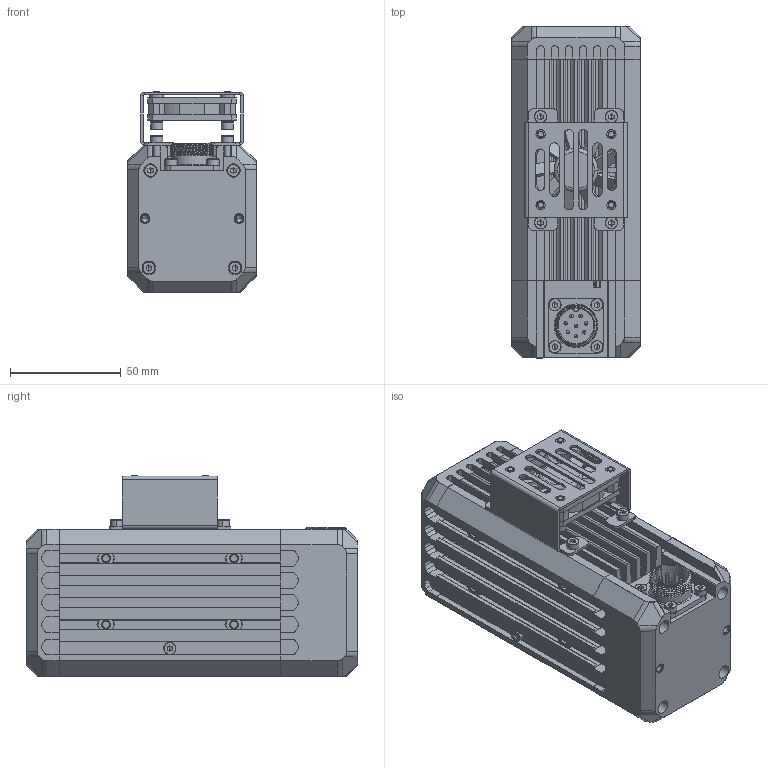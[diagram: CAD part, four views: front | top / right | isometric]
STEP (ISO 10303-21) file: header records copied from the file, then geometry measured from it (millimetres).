
FILE_DESCRIPTION((''),'2;1');
FILE_NAME('MV-LTDS-H-100-W_ASM','2025-06-03T14:35:54',('huguozhe'),(''),'CREO PARAMETRIC BY PTC INC, 2020044','CREO PARAMETRIC BY PTC INC, 2020044','');
FILE_SCHEMA(('AUTOMOTIVE_DESIGN { 1 0 10303 214 1 1 1 1 }'));
Products named in the file (24): DE-15-000602_1_1; DE-15-000601_ASM_1_ASM_1_ASM; DE-15-000604_1_1; DE-15-000603_ASM_1_ASM_1_ASM; SC-HSCM3X6B-GB70_1_1_1; DE-12-001639_1_1; SC-AM3X10NL-BNI-SCM435-GB70_1_1; SC-HSCM3X8-SUS316_1_1; DE-11-019911_1_1; 8002-CLS-M3-1_1_1; DE-11-019911_ASM_1_ASM_1_ASM; 101800527_01_1_1; 101800527_02_1_1; 101800527_MGA4012HB-O10_ASM_1_A_ASM; SC-ASFM3X14NL-BNI-SUS316L_1_1; NUT-M4-GB6170_1_1; PRT0002_1; DE-14-016113_ASM_1; MV-LTDS-H-100-W_ASM_1_ASM_1_ASM; 19M-H_2_1; 19M-8H-8P_1; 19M-8H_ASM_1_1_ASM; 19M-8H_ASM_ASM; MV-LTDS-H-100-W_ASM
Assembly tree (52 placements, depth 4):
  MV-LTDS-H-100-W_ASM
    MV-LTDS-H-100-W_ASM_1_ASM_1_ASM
      DE-15-000601_ASM_1_ASM_1_ASM
        DE-15-000602_1_1
      DE-15-000603_ASM_1_ASM_1_ASM  x2
        DE-15-000604_1_1
      SC-HSCM3X6B-GB70_1_1_1  x2
      DE-12-001639_1_1
      SC-AM3X10NL-BNI-SCM435-GB70_1_1  x12
      SC-HSCM3X8-SUS316_1_1  x4
      DE-11-019911_ASM_1_ASM_1_ASM
        DE-11-019911_1_1
        8002-CLS-M3-1_1_1  x4
      101800527_MGA4012HB-O10_ASM_1_A_ASM
        101800527_01_1_1
        101800527_02_1_1
      SC-ASFM3X14NL-BNI-SUS316L_1_1  x4
      NUT-M4-GB6170_1_1  x8
      PRT0002_1
      DE-14-016113_ASM_1
    19M-8H_ASM_ASM
      19M-8H_ASM_1_1_ASM
        19M-H_2_1
        19M-8H-8P_1
Bounding box: 58 x 150 x 90.6 mm (x, y, z)
Volume: 441401.1 mm3; surface area: 149097.1 mm2
Topology: 45 solids, 109 shells, 2533 faces, 6854 edges, 4428 vertices
Faces by surface type: plane 1174, cylinder 845, cone 370, torus 110, bspline 18, sphere 16
Entity records: 65563 total; most frequent: CARTESIAN_POINT 14999, DIRECTION 9135, ORIENTED_EDGE 8504, EDGE_CURVE 4312, AXIS2_PLACEMENT_3D 3411, VERTEX_POINT 2886, VECTOR 2313, LINE 2313
